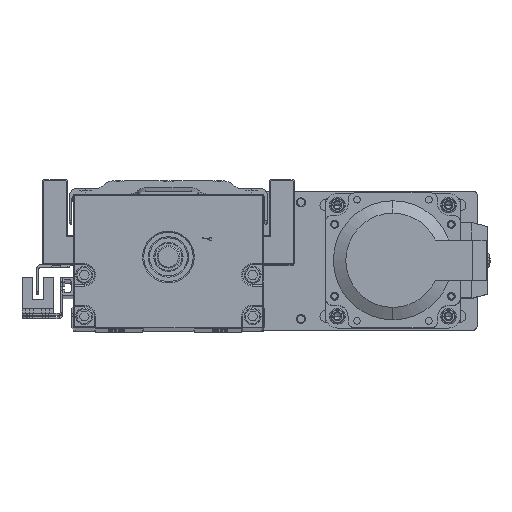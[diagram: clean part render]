
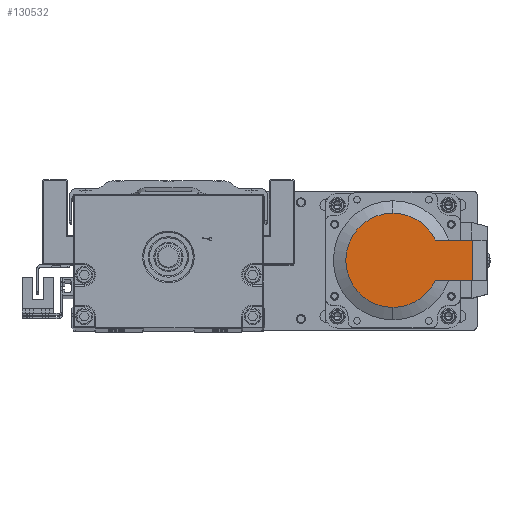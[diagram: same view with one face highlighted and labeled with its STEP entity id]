
A CAD part, top view. The second image highlights one B-rep face of the part: STEP entity #130532.
In plain terms, the highlighted planar face has unit normal (0, 0, 1).
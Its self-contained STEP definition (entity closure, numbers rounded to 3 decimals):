
#144 = AXIS2_PLACEMENT_3D ( 'NONE', #102715, #127058, #90571 ) ;
#7067 = AXIS2_PLACEMENT_3D ( 'NONE', #94027, #118428, #141204 ) ;
#10876 = CARTESIAN_POINT ( 'NONE',  ( 121.36, 3.277, 500.168 ) ) ;
#13770 = LINE ( 'NONE', #36525, #106868 ) ;
#17622 = CARTESIAN_POINT ( 'NONE',  ( 85.777, -8.723, 500.168 ) ) ;
#22601 = DIRECTION ( 'NONE',  ( 1., 0., 0. ) ) ;
#25093 = DIRECTION ( 'NONE',  ( 0., 0., 1. ) ) ;
#27197 = CARTESIAN_POINT ( 'NONE',  ( 121.36, 3.277, 500.168 ) ) ;
#28484 = AXIS2_PLACEMENT_3D ( 'NONE', #86277, #25093, #62347 ) ;
#32207 = EDGE_CURVE ( 'NONE', #70148, #36347, #133820, .T. ) ;
#33343 = CARTESIAN_POINT ( 'NONE',  ( 85.777, 33.277, 500.168 ) ) ;
#34240 = VERTEX_POINT ( 'NONE', #33343 ) ;
#36347 = VERTEX_POINT ( 'NONE', #92395 ) ;
#36525 = CARTESIAN_POINT ( 'NONE',  ( 121.36, 21.277, 500.168 ) ) ;
#50648 = CARTESIAN_POINT ( 'NONE',  ( 104.751, 3.277, 500.168 ) ) ;
#51715 = VERTEX_POINT ( 'NONE', #17622 ) ;
#54322 = ORIENTED_EDGE ( 'NONE', *, *, #130986, .T. ) ;
#62347 = DIRECTION ( 'NONE',  ( 0., 1., 0. ) ) ;
#62949 = ORIENTED_EDGE ( 'NONE', *, *, #117919, .T. ) ;
#69497 = EDGE_CURVE ( 'NONE', #51715, #110850, #107829, .T. ) ;
#69591 = EDGE_LOOP ( 'NONE', ( #142385, #62949, #54322, #85544, #139381, #81444 ) ) ;
#70148 = VERTEX_POINT ( 'NONE', #140645 ) ;
#73769 = DIRECTION ( 'NONE',  ( 0., -1., 0. ) ) ;
#77055 = FACE_OUTER_BOUND ( 'NONE', #69591, .T. ) ;
#81444 = ORIENTED_EDGE ( 'NONE', *, *, #135872, .F. ) ;
#85544 = ORIENTED_EDGE ( 'NONE', *, *, #69497, .T. ) ;
#86277 = CARTESIAN_POINT ( 'NONE',  ( 85.777, 33.277, 500.168 ) ) ;
#90571 = DIRECTION ( 'NONE',  ( 0., 1., 0. ) ) ;
#92395 = CARTESIAN_POINT ( 'NONE',  ( 121.36, 21.277, 500.168 ) ) ;
#94027 = CARTESIAN_POINT ( 'NONE',  ( 85.777, 12.277, 500.168 ) ) ;
#97133 = DIRECTION ( 'NONE',  ( 1., 0., 0. ) ) ;
#102715 = CARTESIAN_POINT ( 'NONE',  ( 85.777, 12.277, 500.168 ) ) ;
#103414 = DIRECTION ( 'NONE',  ( 0., 1., 0. ) ) ;
#106868 = VECTOR ( 'NONE', #73769, 1000. ) ;
#107829 = CIRCLE ( 'NONE', #144, 21. ) ;
#110850 = VERTEX_POINT ( 'NONE', #50648 ) ;
#116667 = DIRECTION ( 'NONE',  ( 0., 0., 1. ) ) ;
#117553 = CIRCLE ( 'NONE', #7067, 21. ) ;
#117919 = EDGE_CURVE ( 'NONE', #70148, #34240, #150803, .T. ) ;
#118428 = DIRECTION ( 'NONE',  ( 0., 0., 1. ) ) ;
#123096 = VERTEX_POINT ( 'NONE', #27197 ) ;
#123658 = VECTOR ( 'NONE', #22601, 1000. ) ;
#127058 = DIRECTION ( 'NONE',  ( 0., 0., 1. ) ) ;
#130532 = ADVANCED_FACE ( 'NONE', ( #77055 ), #146635, .T. ) ;
#130986 = EDGE_CURVE ( 'NONE', #34240, #51715, #117553, .T. ) ;
#132642 = CARTESIAN_POINT ( 'NONE',  ( 121.36, 21.277, 500.168 ) ) ;
#133820 = LINE ( 'NONE', #132642, #154733 ) ;
#135872 = EDGE_CURVE ( 'NONE', #36347, #123096, #13770, .T. ) ;
#139381 = ORIENTED_EDGE ( 'NONE', *, *, #148904, .T. ) ;
#139979 = CARTESIAN_POINT ( 'NONE',  ( 85.777, 12.277, 500.168 ) ) ;
#140645 = CARTESIAN_POINT ( 'NONE',  ( 104.751, 21.277, 500.168 ) ) ;
#141204 = DIRECTION ( 'NONE',  ( 0., 1., 0. ) ) ;
#142385 = ORIENTED_EDGE ( 'NONE', *, *, #32207, .F. ) ;
#146635 = PLANE ( 'NONE',  #28484 ) ;
#148904 = EDGE_CURVE ( 'NONE', #110850, #123096, #155984, .T. ) ;
#150803 = CIRCLE ( 'NONE', #156340, 21. ) ;
#154733 = VECTOR ( 'NONE', #97133, 1000. ) ;
#155984 = LINE ( 'NONE', #10876, #123658 ) ;
#156340 = AXIS2_PLACEMENT_3D ( 'NONE', #139979, #116667, #103414 ) ;
